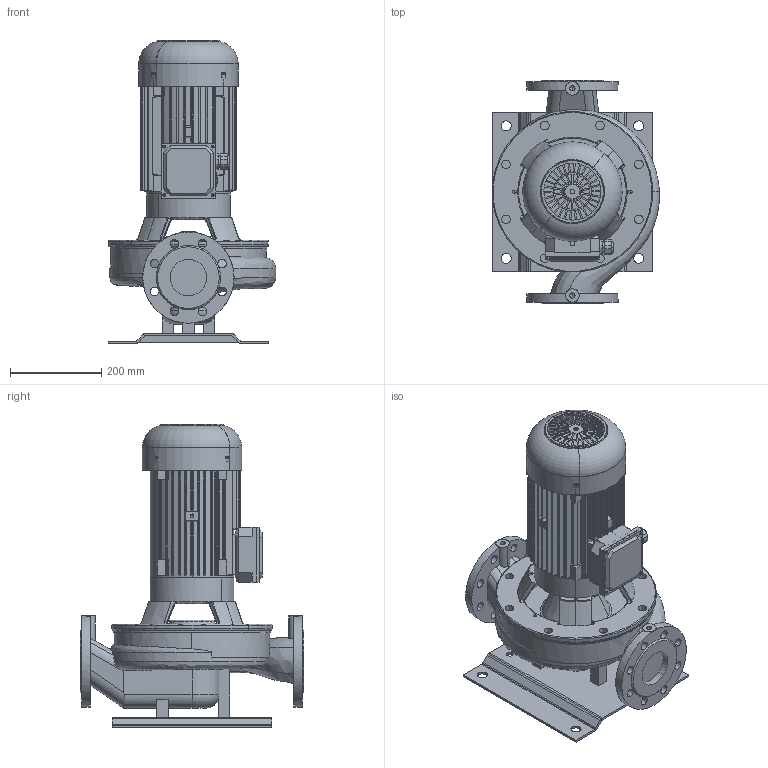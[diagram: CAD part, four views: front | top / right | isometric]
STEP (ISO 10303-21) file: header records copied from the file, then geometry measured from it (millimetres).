
FILE_DESCRIPTION(('STEP AP214'),'1');
FILE_NAME('export.stp','2018-05-29T07:44:18',(' '),(' '),'Spatial InterOp 3D',' ',' ');
FILE_SCHEMA(('AUTOMOTIVE_DESIGN { 1 0 10303 214 1 1 1 1 }'));
Length unit declared in the file: millimetre
Products named in the file (19): W_L80S4400_KP-112; V_TLL50S80S; V_PPL80S; P100496; P100495; P100342; 440017; 440016; V_MKP112_2_F29; 480016; 480015; 440018; 440021; 480022; 480020; 480021; 480023; M25_Blind_Plug; M25_tiivisteholkk
Assembly tree (19 placements, depth 4):
  W_L80S4400_KP-112
    V_TLL50S80S
    V_PPL80S
    P100496
      P100495  x2
      P100342
    V_MKP112_2_F29
      440017
        440016
      480016
        480015
      440018
      440021
      480022
      480020
      480021
      480023
      M25_Blind_Plug
      M25_tiivisteholkk
Bounding box: 366.33 x 490 x 665.1 mm (x, y, z)
Volume: 14073422.9 mm3; surface area: 2272217.6 mm2
Topology: 15 solids, 15 shells, 1793 faces, 5025 edges, 3280 vertices
Faces by surface type: cylinder 847, plane 598, cone 140, torus 117, bspline 84, sphere 7
Entity records: 72127 total; most frequent: CARTESIAN_POINT 22500, ORIENTED_EDGE 9984, DIRECTION 9488, EDGE_CURVE 4992, AXIS2_PLACEMENT_3D 3646, VERTEX_POINT 3272, LINE 2196, VECTOR 2196
